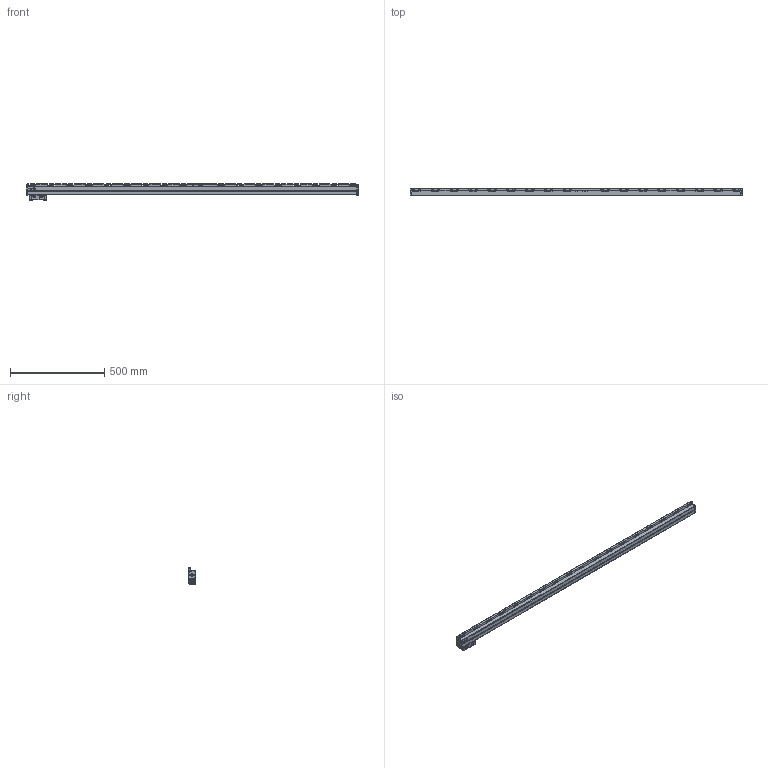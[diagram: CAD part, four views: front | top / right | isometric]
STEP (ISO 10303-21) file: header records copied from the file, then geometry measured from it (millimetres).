
FILE_DESCRIPTION(('Creo Elements/Direct Modeling STEP Export'),'2;1');
FILE_NAME('REGLA_G3-1640-T.stp','2019-06-13T17:44:45',(''),(''),'Creo Elements/Direct Modeling STEP processor for AP214 (Solid Model)','Creo Elements/Direct Modeling 19.0G 27-Nov-2017 (C) Parametric Technology GmbH','');
FILE_SCHEMA(('AUTOMOTIVE_DESIGN { 1 0 10303 214 1 1 1 1 }'));
Products named in the file (3): REGLA_G3-1640; CABEZA_ROSCADA_M6_G3; REGLA_G3-1640-T
Assembly tree (2 placements, depth 2):
  REGLA_G3-1640-T
    CABEZA_ROSCADA_M6_G3
    REGLA_G3-1640
Bounding box: 1761 x 37 x 85 mm (x, y, z)
Volume: 2876063.9 mm3; surface area: 419232.5 mm2
Topology: 2 solids, 50 shells, 2625 faces, 7497 edges, 4891 vertices
Faces by surface type: plane 1152, cylinder 1115, cone 298, torus 30, bspline 30
Entity records: 102811 total; most frequent: CARTESIAN_POINT 30421, ORIENTED_EDGE 14834, DIRECTION 12548, EDGE_CURVE 7401, VERTEX_POINT 4891, AXIS2_PLACEMENT_3D 4414, VECTOR 3720, LINE 3720
